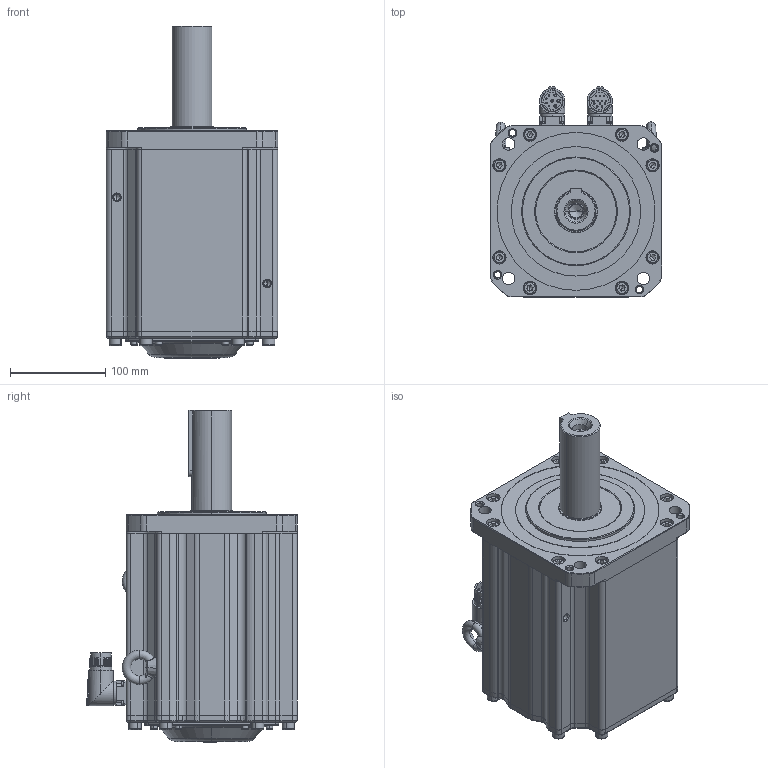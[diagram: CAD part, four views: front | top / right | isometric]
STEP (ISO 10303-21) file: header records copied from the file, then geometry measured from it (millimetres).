
FILE_DESCRIPTION (( 'STEP AP203' ), '1' );
FILE_NAME ('MC20-180-3M15-N552-0¡õPK-NNNN.STEP', '2025-05-05T03:31:08', ( '' ), ( '' ), 'SwSTEP 2.0', 'SolidWorks 2014', '' );
FILE_SCHEMA (( 'CONFIG_CONTROL_DESIGN' ));
Length unit declared in the file: millimetre
Products named in the file (1): MC20-180-3M15-N552-0¡õPK-NNNN
Bounding box: 180 x 221.35 x 348.95 mm (x, y, z)
Volume: 4286298 mm3; surface area: 572930.9 mm2
Topology: 40 solids, 42 shells, 2190 faces, 5098 edges, 3031 vertices
Faces by surface type: plane 883, cylinder 569, cone 483, torus 208, bspline 47
Entity records: 63892 total; most frequent: CARTESIAN_POINT 13748, DIRECTION 11030, ORIENTED_EDGE 9944, EDGE_CURVE 4972, AXIS2_PLACEMENT_3D 4270, VERTEX_POINT 3031, VECTOR 2490, LINE 2490
